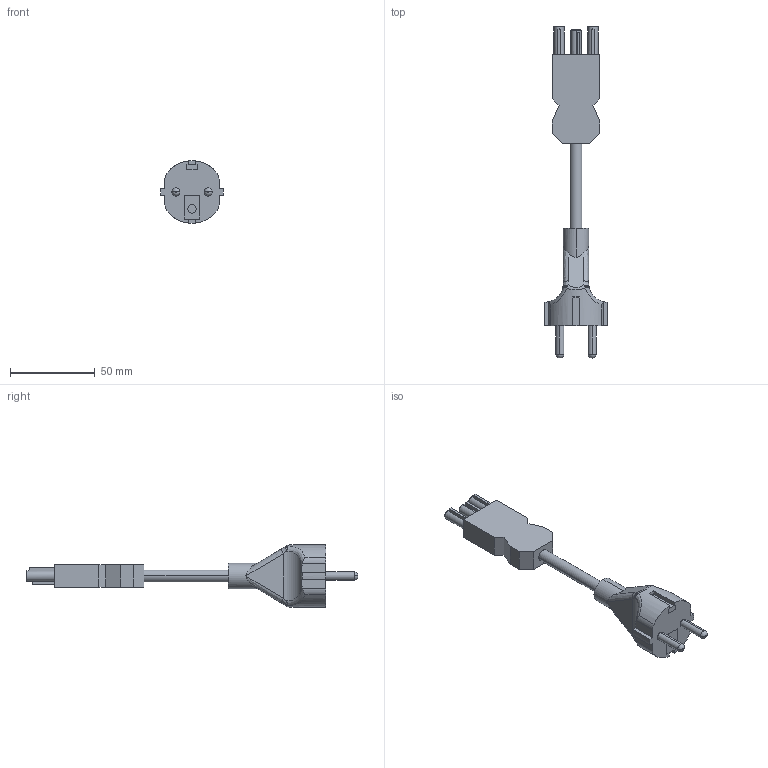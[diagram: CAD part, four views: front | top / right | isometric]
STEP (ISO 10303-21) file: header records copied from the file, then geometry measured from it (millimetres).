
FILE_DESCRIPTION (( 'STEP AP214' ), '1' );
FILE_NAME ('1001217.STEP', '2025-09-16T11:33:12', ( '' ), ( '' ), 'SwSTEP 2.0', 'SolidWorks 2025', '' );
FILE_SCHEMA (( 'AUTOMOTIVE_DESIGN' ));
Length unit declared in the file: millimetre
Products named in the file (2): 1001217; T79108_Gerätezuleitung_Schuko.1.1_T79108_Gerätezuleitung_Schuko.1.1
Assembly tree (1 placements, depth 2):
  1001217
    T79108_Gerätezuleitung_Schuko.1.1_T79108_Gerätezuleitung_Schuko.1.1
Bounding box: 37 x 196.1 x 37 mm (x, y, z)
Volume: 51539.4 mm3; surface area: 15324.9 mm2
Topology: 1 solids, 1 shells, 160 faces, 397 edges, 256 vertices
Faces by surface type: plane 79, cylinder 45, bspline 26, cone 6, torus 4
Entity records: 10319 total; most frequent: CARTESIAN_POINT 6273, ORIENTED_EDGE 794, DIRECTION 701, EDGE_CURVE 397, VERTEX_POINT 256, AXIS2_PLACEMENT_3D 247, VECTOR 207, LINE 207
